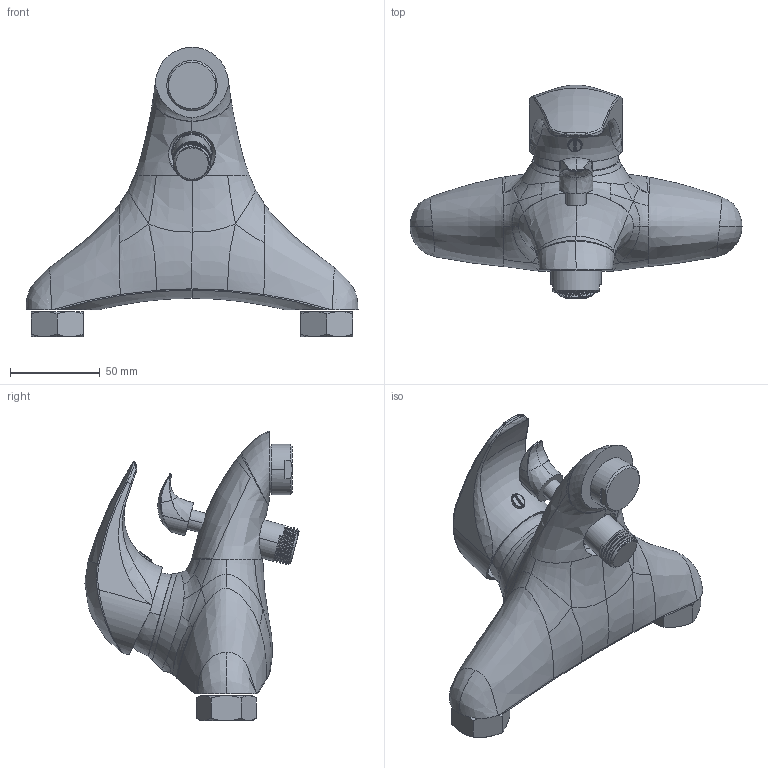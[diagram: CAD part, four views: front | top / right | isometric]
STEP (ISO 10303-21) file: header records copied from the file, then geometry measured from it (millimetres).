
FILE_DESCRIPTION((''),'2;1');
FILE_NAME('10100_SUB01_SW0001','2026-10-07T11:39:01',('simi1'),(''),'CREO PARAMETRIC BY PTC INC, 2022244','CREO PARAMETRIC BY PTC INC, 2022244','');
FILE_SCHEMA(('CONFIG_CONTROL_DESIGN'));
Length unit declared in the file: millimetre
Products named in the file (1): 10100_SUB01_SW0001
Bounding box: 184.6 x 119.03 x 160.97 mm (x, y, z)
Surface area: 74895.4 mm2 (no closed solid volume)
Topology: 0 solids, 28 shells, 402 faces, 1694 edges, 1289 vertices
Faces by surface type: bspline 193, plane 100, cylinder 41, cone 34, torus 24, sphere 6, extrusion 4
Entity records: 45971 total; most frequent: CARTESIAN_POINT 35393, ORIENTED_EDGE 2545, EDGE_CURVE 1688, VERTEX_POINT 1289, B_SPLINE_CURVE_WITH_KNOTS 1225, DIRECTION 1143, AXIS2_PLACEMENT_3D 467, EDGE_LOOP 402
